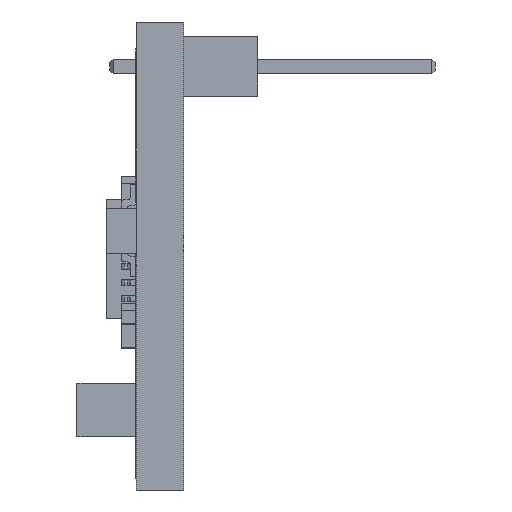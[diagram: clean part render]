
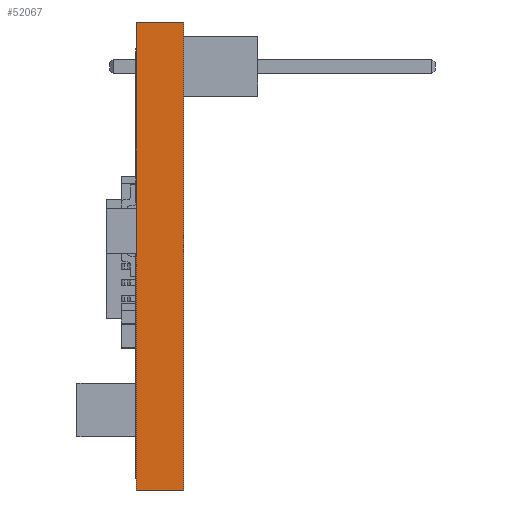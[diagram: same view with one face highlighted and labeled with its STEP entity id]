
A CAD part, left-side view. The second image highlights one B-rep face of the part: STEP entity #52067.
In plain terms, the highlighted planar face has unit normal (-1, 0, 0).
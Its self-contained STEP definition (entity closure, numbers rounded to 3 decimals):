
#5180=FACE_OUTER_BOUND('',#7950,.T.);
#7950=EDGE_LOOP('',(#45168,#45169,#45170,#45171));
#8418=LINE('',#65366,#13949);
#10382=LINE('',#76646,#15913);
#13479=LINE('',#87543,#19010);
#13482=LINE('',#87548,#19013);
#13949=VECTOR('',#55219,10.);
#15913=VECTOR('',#58351,10.);
#19010=VECTOR('',#64330,10.);
#19013=VECTOR('',#64337,10.);
#19319=VERTEX_POINT('',#65364);
#19320=VERTEX_POINT('',#65365);
#21198=VERTEX_POINT('',#76644);
#21199=VERTEX_POINT('',#76645);
#24230=EDGE_CURVE('',#19319,#19320,#8418,.T.);
#27019=EDGE_CURVE('',#21198,#21199,#10382,.T.);
#30890=EDGE_CURVE('',#19319,#21198,#13479,.T.);
#30893=EDGE_CURVE('',#19320,#21199,#13482,.T.);
#45168=ORIENTED_EDGE('',*,*,#24230,.T.);
#45169=ORIENTED_EDGE('',*,*,#30893,.T.);
#45170=ORIENTED_EDGE('',*,*,#27019,.F.);
#45171=ORIENTED_EDGE('',*,*,#30890,.F.);
#46950=PLANE('',#54329);
#52067=ADVANCED_FACE('',(#5180),#46950,.T.);
#54329=AXIS2_PLACEMENT_3D('',#87549,#64338,#64339);
#55219=DIRECTION('',(0.,0.,1.));
#58351=DIRECTION('',(0.,0.,1.));
#64330=DIRECTION('',(0.,1.,0.));
#64337=DIRECTION('',(0.,1.,0.));
#64338=DIRECTION('center_axis',(-1.,0.,0.));
#64339=DIRECTION('ref_axis',(0.,0.,1.));
#65364=CARTESIAN_POINT('',(-10.15,0.,-7.9));
#65365=CARTESIAN_POINT('',(-10.15,0.,7.9));
#65366=CARTESIAN_POINT('',(-10.15,0.,-7.9));
#76644=CARTESIAN_POINT('',(-10.15,1.6,-7.9));
#76645=CARTESIAN_POINT('',(-10.15,1.6,7.9));
#76646=CARTESIAN_POINT('',(-10.15,1.6,-7.9));
#87543=CARTESIAN_POINT('',(-10.15,0.,-7.9));
#87548=CARTESIAN_POINT('',(-10.15,0.,7.9));
#87549=CARTESIAN_POINT('Origin',(-10.15,0.,-7.9));
